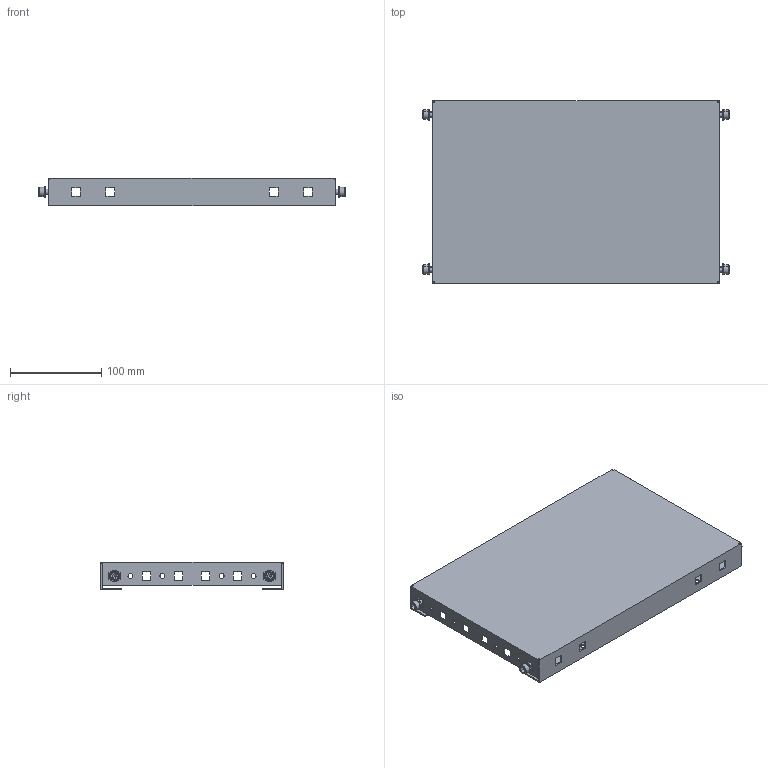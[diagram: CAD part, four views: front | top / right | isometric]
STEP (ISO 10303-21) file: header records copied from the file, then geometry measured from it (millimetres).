
FILE_DESCRIPTION(('Open CASCADE Model'),'2;1');
FILE_NAME('Open CASCADE Shape Model','2025-02-07T17:53:31',('Author'),( 'Open CASCADE'),'Open CASCADE STEP processor 7.8','Open CASCADE 7.8' ,'Unknown');
FILE_SCHEMA(('AUTOMOTIVE_DESIGN { 1 0 10303 214 1 1 1 1 }'));
Length unit declared in the file: millimetre
Products named in the file (5): Compound1; Solid1; Solid2; Solid3; Solid4
Assembly tree (13 placements, depth 2):
  Compound1
    Solid1
    Solid2  x4
    Solid3  x4
    Solid4  x4
Bounding box: 336.2 x 200 x 30 mm (x, y, z)
Volume: 156816.2 mm3; surface area: 212809 mm2
Topology: 13 solids, 13 shells, 740 faces, 2066 edges, 1344 vertices
Faces by surface type: plane 402, cylinder 274, cone 32, bspline 16, torus 16
Full cylindrical faces by diameter (mm): 5.5 x8, 6.5 x26
Entity records: 23061 total; most frequent: CARTESIAN_POINT 14875, ORIENTED_EDGE 1740, DIRECTION 1544, EDGE_CURVE 870, VERTEX_POINT 573, LINE 562, VECTOR 562, AXIS2_PLACEMENT_3D 491
